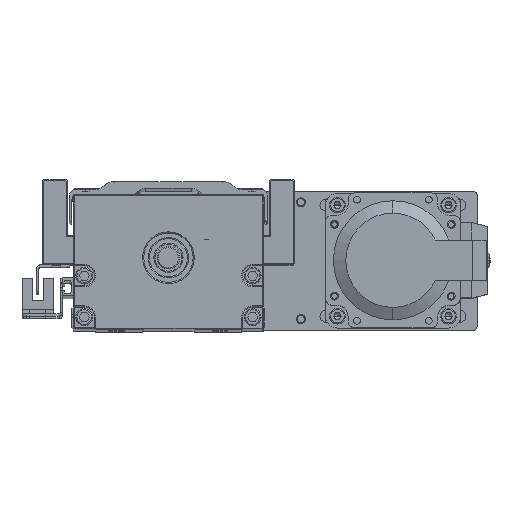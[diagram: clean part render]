
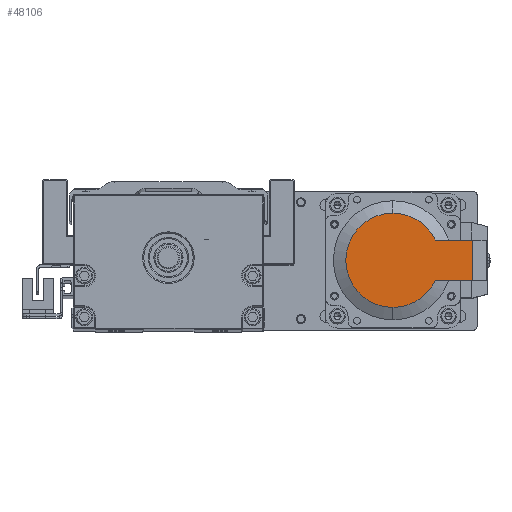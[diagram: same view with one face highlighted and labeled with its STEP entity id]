
A CAD part, top view. The second image highlights one B-rep face of the part: STEP entity #48106.
In plain terms, the highlighted planar face has unit normal (0, 0, 1).
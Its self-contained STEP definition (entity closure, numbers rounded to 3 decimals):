
#3937 = CIRCLE ( 'NONE', #16605, 21. ) ;
#7321 = CIRCLE ( 'NONE', #32147, 21. ) ;
#9099 = DIRECTION ( 'NONE',  ( 0., 0., 1. ) ) ;
#9843 = EDGE_CURVE ( 'NONE', #121448, #112482, #23198, .T. ) ;
#11306 = CARTESIAN_POINT ( 'NONE',  ( 85.777, 33.277, 500.168 ) ) ;
#14138 = ORIENTED_EDGE ( 'NONE', *, *, #64366, .T. ) ;
#16605 = AXIS2_PLACEMENT_3D ( 'NONE', #118867, #119903, #106891 ) ;
#18792 = DIRECTION ( 'NONE',  ( 0., 1., 0. ) ) ;
#23198 = LINE ( 'NONE', #42060, #43725 ) ;
#27276 = AXIS2_PLACEMENT_3D ( 'NONE', #43847, #56726, #18792 ) ;
#30575 = VECTOR ( 'NONE', #68533, 1000. ) ;
#32147 = AXIS2_PLACEMENT_3D ( 'NONE', #150873, #9099, #79404 ) ;
#36811 = VECTOR ( 'NONE', #64987, 1000. ) ;
#36896 = DIRECTION ( 'NONE',  ( 0., 0., 1. ) ) ;
#40718 = ORIENTED_EDGE ( 'NONE', *, *, #100391, .F. ) ;
#42060 = CARTESIAN_POINT ( 'NONE',  ( 121.36, 21.277, 500.168 ) ) ;
#43725 = VECTOR ( 'NONE', #135233, 1000. ) ;
#43847 = CARTESIAN_POINT ( 'NONE',  ( 85.777, 12.277, 500.168 ) ) ;
#48106 = ADVANCED_FACE ( 'NONE', ( #82801 ), #152529, .T. ) ;
#48434 = AXIS2_PLACEMENT_3D ( 'NONE', #11306, #36896, #120085 ) ;
#56726 = DIRECTION ( 'NONE',  ( 0., 0., 1. ) ) ;
#62998 = ORIENTED_EDGE ( 'NONE', *, *, #150608, .T. ) ;
#64366 = EDGE_CURVE ( 'NONE', #86046, #110718, #3937, .T. ) ;
#64987 = DIRECTION ( 'NONE',  ( 1., 0., 0. ) ) ;
#65861 = VERTEX_POINT ( 'NONE', #141273 ) ;
#68533 = DIRECTION ( 'NONE',  ( 1., 0., 0. ) ) ;
#75730 = ORIENTED_EDGE ( 'NONE', *, *, #106737, .T. ) ;
#79404 = DIRECTION ( 'NONE',  ( 0., 1., 0. ) ) ;
#79568 = LINE ( 'NONE', #87423, #36811 ) ;
#81826 = CIRCLE ( 'NONE', #27276, 21. ) ;
#82801 = FACE_OUTER_BOUND ( 'NONE', #107720, .T. ) ;
#86046 = VERTEX_POINT ( 'NONE', #136117 ) ;
#87423 = CARTESIAN_POINT ( 'NONE',  ( 121.36, 3.277, 500.168 ) ) ;
#97544 = LINE ( 'NONE', #123946, #30575 ) ;
#98356 = CARTESIAN_POINT ( 'NONE',  ( 121.36, 3.277, 500.168 ) ) ;
#98526 = ORIENTED_EDGE ( 'NONE', *, *, #9843, .F. ) ;
#100391 = EDGE_CURVE ( 'NONE', #65861, #121448, #97544, .T. ) ;
#101080 = CARTESIAN_POINT ( 'NONE',  ( 104.751, 3.277, 500.168 ) ) ;
#102032 = CARTESIAN_POINT ( 'NONE',  ( 121.36, 21.277, 500.168 ) ) ;
#104408 = EDGE_CURVE ( 'NONE', #110718, #112482, #79568, .T. ) ;
#106737 = EDGE_CURVE ( 'NONE', #151543, #86046, #81826, .T. ) ;
#106891 = DIRECTION ( 'NONE',  ( 0., 1., 0. ) ) ;
#107720 = EDGE_LOOP ( 'NONE', ( #40718, #62998, #75730, #14138, #129805, #98526 ) ) ;
#110718 = VERTEX_POINT ( 'NONE', #101080 ) ;
#112482 = VERTEX_POINT ( 'NONE', #98356 ) ;
#118867 = CARTESIAN_POINT ( 'NONE',  ( 85.777, 12.277, 500.168 ) ) ;
#119903 = DIRECTION ( 'NONE',  ( 0., 0., 1. ) ) ;
#120085 = DIRECTION ( 'NONE',  ( 0., 1., 0. ) ) ;
#121448 = VERTEX_POINT ( 'NONE', #102032 ) ;
#123946 = CARTESIAN_POINT ( 'NONE',  ( 121.36, 21.277, 500.168 ) ) ;
#129805 = ORIENTED_EDGE ( 'NONE', *, *, #104408, .T. ) ;
#135233 = DIRECTION ( 'NONE',  ( 0., -1., 0. ) ) ;
#136117 = CARTESIAN_POINT ( 'NONE',  ( 85.777, -8.723, 500.168 ) ) ;
#141273 = CARTESIAN_POINT ( 'NONE',  ( 104.751, 21.277, 500.168 ) ) ;
#147896 = CARTESIAN_POINT ( 'NONE',  ( 85.777, 33.277, 500.168 ) ) ;
#150608 = EDGE_CURVE ( 'NONE', #65861, #151543, #7321, .T. ) ;
#150873 = CARTESIAN_POINT ( 'NONE',  ( 85.777, 12.277, 500.168 ) ) ;
#151543 = VERTEX_POINT ( 'NONE', #147896 ) ;
#152529 = PLANE ( 'NONE',  #48434 ) ;
